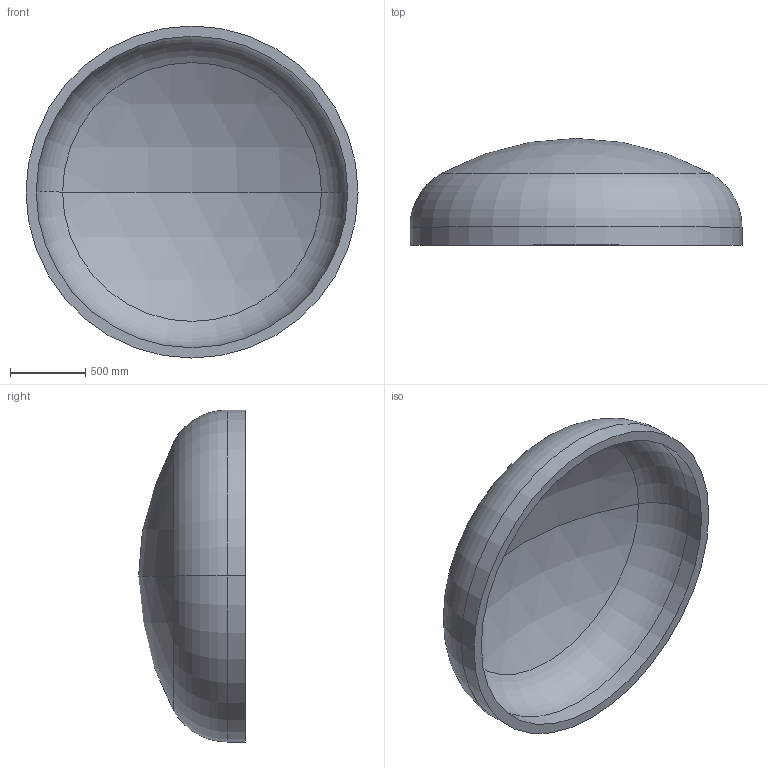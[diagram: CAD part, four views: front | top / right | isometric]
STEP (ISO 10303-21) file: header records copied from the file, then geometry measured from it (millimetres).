
FILE_DESCRIPTION (( 'STEP AP203' ), '1' );
FILE_NAME ('DIN 28013 Korbbogenform_-_Boden DIN 28013 - 2200 x 120 - I - s=68.step', '2016-07-01T14:45:19', ( '' ), ( '' ), 'SwSTEP 2.0', 'SolidWorks 2013', '' );
FILE_SCHEMA (( 'CONFIG_CONTROL_DESIGN' ));
Length unit declared in the file: millimetre
Products named in the file (1): DIN 28013 Korbbogenform_-_Boden DIN 28013 - 2200 x 120 - I - s=68
Bounding box: 2200 x 708.03 x 2200 mm (x, y, z)
Volume: 398746826.9 mm3; surface area: 12192984.3 mm2
Topology: 1 solids, 1 shells, 13 faces, 24 edges, 14 vertices
Faces by surface type: torus 4, cylinder 4, sphere 4, plane 1
Entity records: 407 total; most frequent: DIRECTION 72, CARTESIAN_POINT 52, ORIENTED_EDGE 48, AXIS2_PLACEMENT_3D 34, EDGE_CURVE 24, CIRCLE 20, VERTEX_POINT 14, EDGE_LOOP 14
